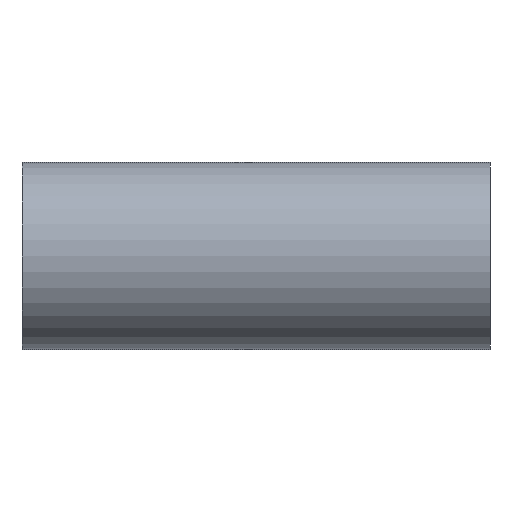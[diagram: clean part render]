
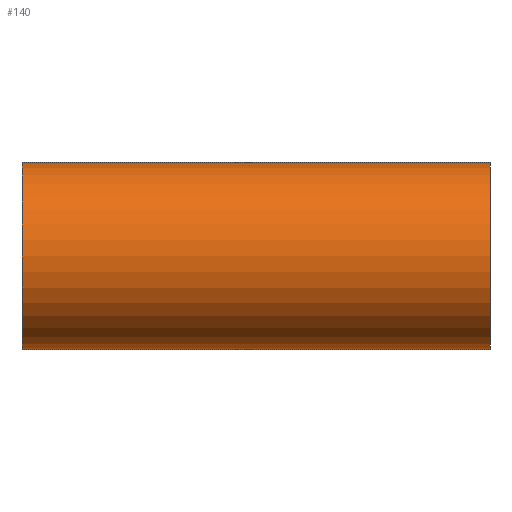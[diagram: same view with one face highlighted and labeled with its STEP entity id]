
A CAD part, front view. The second image highlights one B-rep face of the part: STEP entity #140.
In plain terms, the highlighted cylindrical face has radius 31.75 mm (diameter 63.5 mm), a partial arc.
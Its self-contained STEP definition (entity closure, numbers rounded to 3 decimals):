
#59 = CIRCLE ( 'NONE', #342, 31.75 ) ;
#87 = CARTESIAN_POINT ( 'NONE',  ( -79.4, 0., -31.75 ) ) ;
#115 = EDGE_CURVE ( 'NONE', #528, #167, #472, .T. ) ;
#120 = CARTESIAN_POINT ( 'NONE',  ( 79.4, 0., 31.75 ) ) ;
#140 = ADVANCED_FACE ( 'NONE', ( #316 ), #561, .T. ) ;
#141 = CARTESIAN_POINT ( 'NONE',  ( 79.4, 0., -31.75 ) ) ;
#146 = DIRECTION ( 'NONE',  ( 0., 0., -1. ) ) ;
#167 = VERTEX_POINT ( 'NONE', #141 ) ;
#189 = CARTESIAN_POINT ( 'NONE',  ( -79.4, 0., 31.75 ) ) ;
#210 = AXIS2_PLACEMENT_3D ( 'NONE', #369, #362, #146 ) ;
#220 = CARTESIAN_POINT ( 'NONE',  ( -79.4, 0., -31.75 ) ) ;
#223 = CARTESIAN_POINT ( 'NONE',  ( 79.4, 0., 0. ) ) ;
#225 = DIRECTION ( 'NONE',  ( 0., 0., -1. ) ) ;
#226 = DIRECTION ( 'NONE',  ( -1., 0., 0. ) ) ;
#227 = DIRECTION ( 'NONE',  ( 0., 0., -1. ) ) ;
#233 = DIRECTION ( 'NONE',  ( 1., 0., 0. ) ) ;
#236 = EDGE_CURVE ( 'NONE', #167, #504, #59, .T. ) ;
#240 = AXIS2_PLACEMENT_3D ( 'NONE', #584, #233, #225 ) ;
#257 = EDGE_LOOP ( 'NONE', ( #375, #610, #452, #398 ) ) ;
#274 = LINE ( 'NONE', #189, #300 ) ;
#300 = VECTOR ( 'NONE', #508, 1000. ) ;
#316 = FACE_OUTER_BOUND ( 'NONE', #257, .T. ) ;
#324 = DIRECTION ( 'NONE',  ( 1., 0., 0. ) ) ;
#332 = VERTEX_POINT ( 'NONE', #355 ) ;
#342 = AXIS2_PLACEMENT_3D ( 'NONE', #223, #226, #227 ) ;
#353 = CIRCLE ( 'NONE', #210, 31.75 ) ;
#355 = CARTESIAN_POINT ( 'NONE',  ( -79.4, 0., 31.75 ) ) ;
#362 = DIRECTION ( 'NONE',  ( 1., 0., 0. ) ) ;
#369 = CARTESIAN_POINT ( 'NONE',  ( -79.4, 0., 0. ) ) ;
#373 = VECTOR ( 'NONE', #324, 1000. ) ;
#375 = ORIENTED_EDGE ( 'NONE', *, *, #495, .F. ) ;
#398 = ORIENTED_EDGE ( 'NONE', *, *, #236, .T. ) ;
#452 = ORIENTED_EDGE ( 'NONE', *, *, #115, .T. ) ;
#472 = LINE ( 'NONE', #220, #373 ) ;
#495 = EDGE_CURVE ( 'NONE', #332, #504, #274, .T. ) ;
#504 = VERTEX_POINT ( 'NONE', #120 ) ;
#508 = DIRECTION ( 'NONE',  ( 1., 0., 0. ) ) ;
#528 = VERTEX_POINT ( 'NONE', #87 ) ;
#540 = EDGE_CURVE ( 'NONE', #332, #528, #353, .T. ) ;
#561 = CYLINDRICAL_SURFACE ( 'NONE', #240, 31.75 ) ;
#584 = CARTESIAN_POINT ( 'NONE',  ( -79.4, 0., 0. ) ) ;
#610 = ORIENTED_EDGE ( 'NONE', *, *, #540, .T. ) ;
